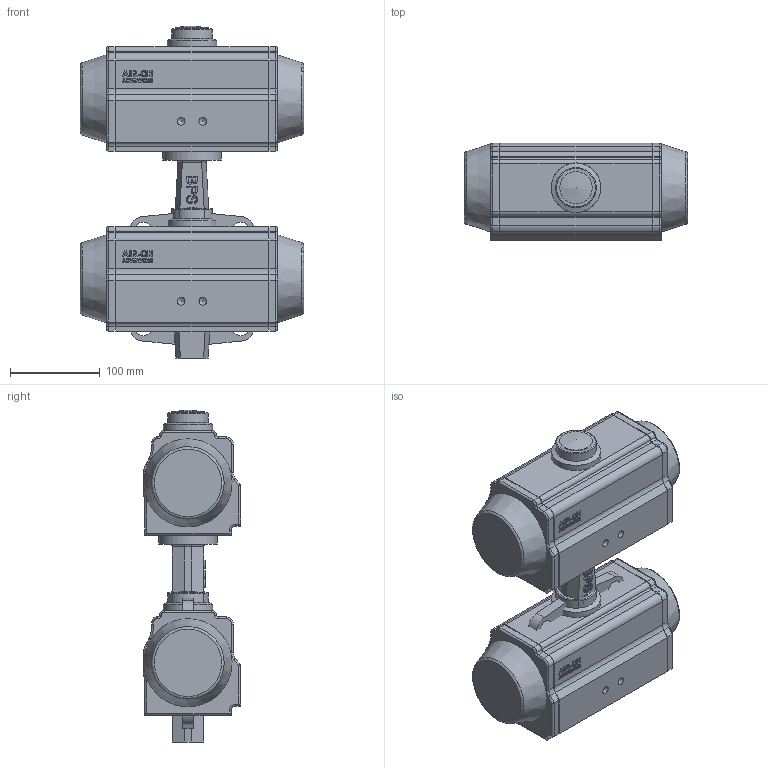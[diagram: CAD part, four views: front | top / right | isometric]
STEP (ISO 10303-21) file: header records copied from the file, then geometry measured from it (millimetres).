
FILE_DESCRIPTION( ( 'Unknown' ), '1' );
FILE_NAME( 'R:/ECCUA/ROOTSI BPS 3D vidinad/Poordklapid Wafer type/Butterfly valve(wafer) with pneumatic actuator BPS/STEP formaat/BPS 2303065PE butterfly valve DN65.stp', 'Unknown', ( 'Unknown' ), ( 'Unknown' ), 'PSStep 10.1', 'Unknown', ' ' );
FILE_SCHEMA( ( 'AUTOMOTIVE_DESIGN { 1 0 10303 214 1 1 1 1 }' ) );
Length unit declared in the file: millimetre
Products named in the file (5): Assem1; Butterfly valve wafer type DN65 BPS; BPS 8300088DA-SR pneumatic actuator
Bounding box: 248 x 108 x 369 mm (x, y, z)
Volume: 6133915.6 mm3; surface area: 501430.6 mm2
Topology: 8 solids, 8 shells, 1022 faces, 2614 edges, 1688 vertices
Faces by surface type: plane 330, extrusion 290, cylinder 240, torus 74, bspline 48, cone 38, sphere 2
Full cylindrical faces by diameter (mm): 4.917 x8, 6.647 x8, 7 x8, 8.376 x8, 8.566 x4, 36 x2, 45 x2, 55 x2, 65 x4, 95 x4, 109 x2
Entity records: 23858 total; most frequent: CARTESIAN_POINT 8026, ORIENTED_EDGE 2432, DIRECTION 2111, EDGE_CURVE 1216, VERTEX_POINT 822, VECTOR 765, AXIS2_PLACEMENT_3D 673, EDGE_LOOP 626
